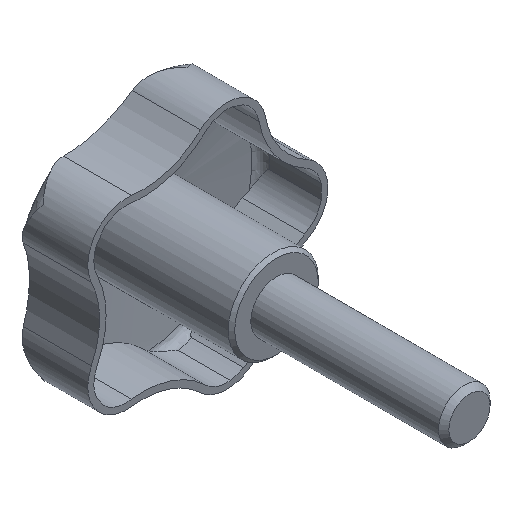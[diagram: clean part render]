
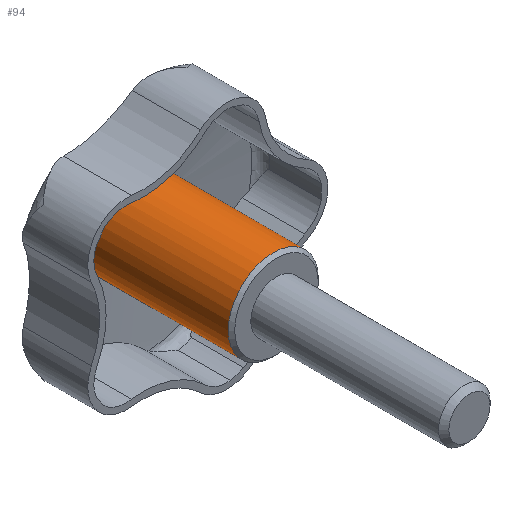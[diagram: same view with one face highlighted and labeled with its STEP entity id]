
A CAD part, isometric view. The second image highlights one B-rep face of the part: STEP entity #94.
In plain terms, the highlighted cylindrical face has radius 7 mm (diameter 14 mm), a full revolution.
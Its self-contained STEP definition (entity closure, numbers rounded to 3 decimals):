
#94 = ADVANCED_FACE( '', ( #165, #166 ), #167, .T. );
#165 = FACE_OUTER_BOUND( '', #271, .T. );
#166 = FACE_OUTER_BOUND( '', #272, .T. );
#167 = CYLINDRICAL_SURFACE( '', #273, 7. );
#271 = EDGE_LOOP( '', ( #530 ) );
#272 = EDGE_LOOP( '', ( #531 ) );
#273 = AXIS2_PLACEMENT_3D( '', #532, #533, #534 );
#530 = ORIENTED_EDGE( '', *, *, #847, .F. );
#531 = ORIENTED_EDGE( '', *, *, #832, .T. );
#532 = CARTESIAN_POINT( '', ( 0., -30., 0. ) );
#533 = DIRECTION( '', ( 0., 1., 0. ) );
#534 = DIRECTION( '', ( 0., 0., -1. ) );
#832 = EDGE_CURVE( '', #1032, #1032, #1033, .T. );
#847 = EDGE_CURVE( '', #1059, #1059, #1060, .T. );
#1032 = VERTEX_POINT( '', #1600 );
#1033 = CIRCLE( '', #1601, 7. );
#1059 = VERTEX_POINT( '', #1687 );
#1060 = CIRCLE( '', #1688, 7. );
#1600 = CARTESIAN_POINT( '', ( 0., 22.779, -7. ) );
#1601 = AXIS2_PLACEMENT_3D( '', #1936, #1937, #1938 );
#1687 = CARTESIAN_POINT( '', ( 0., 0.5, -7. ) );
#1688 = AXIS2_PLACEMENT_3D( '', #1951, #1952, #1953 );
#1936 = CARTESIAN_POINT( '', ( 0., 22.779, 0. ) );
#1937 = DIRECTION( '', ( 0., -1., 0. ) );
#1938 = DIRECTION( '', ( 0., 0., -1. ) );
#1951 = CARTESIAN_POINT( '', ( 0., 0.5, 0. ) );
#1952 = DIRECTION( '', ( 0., -1., 0. ) );
#1953 = DIRECTION( '', ( 0., 0., -1. ) );
